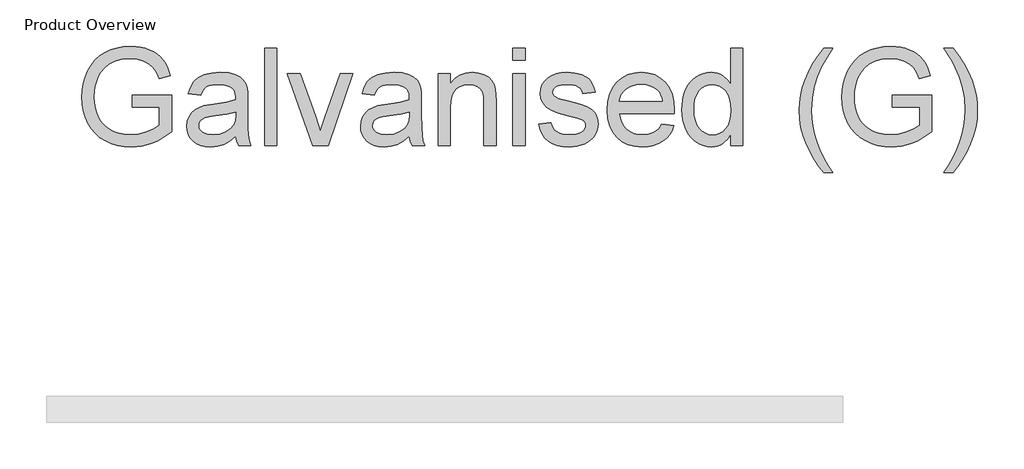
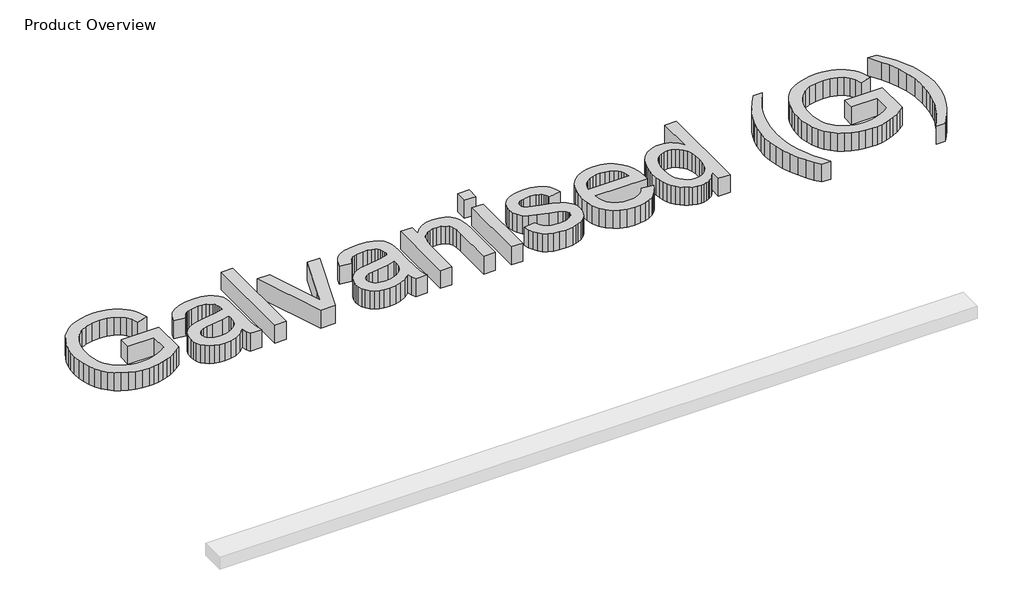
# One storey, part 6 of 12: 1 proxy.
"""IFC4 building model written with IfcOpenShell, lengths in millimetres."""

import ifcopenshell
import ifcopenshell.guid

model = None  # the IFC model being written
_history = None  # IfcOwnerHistory: only IFC2X3 demands one
_inside = {}  # id of a spatial element -> (the spatial element, [elements in it])
_under = {}  # id of a project, library or spatial element -> (it, [spatial elements below it])
_declared = {}  # id of a project -> (the project, [libraries it declares])
_typed = {}  # id of a type object -> (the type object, [elements of that type])
_made_of = {}  # id of a material, layer set ... -> (it, [elements and type objects made of it])


def new_model(schema):
    """Start an empty IFC model of exactly this schema.

    Asked for "IFC4X3", IfcOpenShell would pick the latest addendum, in which some entities
    have other attributes; the version numbers below select the first issue.
    IFC2X3 requires an IfcOwnerHistory on every rooted entity: one is made here for all.
    """
    global model, _history
    if schema == "IFC4X3":
        model = ifcopenshell.file(schema_version=(4, 3, 0, 0))
    else:
        model = ifcopenshell.file(schema=schema)
    _inside.clear()
    _under.clear()
    _declared.clear()
    _typed.clear()
    _made_of.clear()
    _history = None
    if model.schema == "IFC2X3":
        org = make("IfcOrganization", Name="unknown")
        user = make(
            "IfcPersonAndOrganization",
            ThePerson=make("IfcPerson", FamilyName="unknown"),
            TheOrganization=org,
        )
        app = make(
            "IfcApplication",
            ApplicationDeveloper=org,
            Version="unknown",
            ApplicationFullName="unknown",
            ApplicationIdentifier="unknown",
        )
        _history = make(
            "IfcOwnerHistory",
            OwningUser=user,
            OwningApplication=app,
            ChangeAction="ADDED",
            CreationDate=0,
        )
    return model


def make(cls, **values):
    """One entity of the class cls with the attributes given. An attribute that is None is left unset."""
    return model.create_entity(
        cls, **{name: value for name, value in values.items() if value is not None}
    )


def rooted(cls, **values):
    """An entity with a GlobalId (a new one), such as an element, a storey or a relation."""
    return make(cls, GlobalId=ifcopenshell.guid.new(), OwnerHistory=_history, **values)


def si_unit(unit_type, name, prefix=None):
    """IfcSIUnit, for example si_unit("LENGTHUNIT", "METRE", prefix="MILLI")."""
    return make("IfcSIUnit", UnitType=unit_type, Prefix=prefix, Name=name)


def assignment(units):
    """IfcUnitAssignment: the units of a project."""
    return None if units is None else make("IfcUnitAssignment", Units=units)


def point(xyz):
    """IfcCartesianPoint."""
    return None if xyz is None else make("IfcCartesianPoint", Coordinates=xyz)


def direction(xyz):
    """IfcDirection."""
    return None if xyz is None else make("IfcDirection", DirectionRatios=xyz)


def frame(location, z_axis=None, x_axis=None):
    """IfcAxis2Placement3D, a coordinate frame: its origin and axes. An axis left out is left unset."""
    return make(
        "IfcAxis2Placement3D",
        Location=point(location),
        Axis=direction(z_axis),
        RefDirection=direction(x_axis),
    )


def origin():
    """The frame at (0, 0, 0) with its axes left unset."""
    return frame((0.0, 0.0, 0.0))


def origin_with_axes():
    """The frame at (0, 0, 0) with the z axis (0, 0, 1) and the x axis (1, 0, 0) written out."""
    return frame((0.0, 0.0, 0.0), z_axis=(0.0, 0.0, 1.0), x_axis=(1.0, 0.0, 0.0))


def place(relative_to, where):
    """IfcLocalPlacement: puts the frame where relative to a parent placement (None: the world)."""
    return make(
        "IfcLocalPlacement", PlacementRelTo=relative_to, RelativePlacement=where
    )


def context(
    kind, dimensions, precision=None, world=None, true_north=None, identifier=None
):
    """IfcGeometricRepresentationContext, for example the 3D "Model" context."""
    return make(
        "IfcGeometricRepresentationContext",
        ContextIdentifier=identifier,
        ContextType=kind,
        CoordinateSpaceDimension=dimensions,
        Precision=precision,
        WorldCoordinateSystem=world,
        TrueNorth=true_north,
    )


def project(units=None, contexts=None):
    """IfcProject with its units and contexts."""
    return rooted(
        "IfcProject",
        Name="project",
        RepresentationContexts=contexts,
        UnitsInContext=assignment(units),
    )


def spatial(cls, under=None, at=None, **own):
    """A site, building, storey or space (cls), placed at a placement, below another one or the project."""
    s = rooted(cls, ObjectPlacement=at, **own)
    if under is not None:
        _under.setdefault(under.id(), (under, []))[1].append(s)
    return s


def polyline(points):
    """IfcPolyline through the points."""
    return make("IfcPolyline", Points=[point(p) for p in points])


def outline(outer, holes=None, kind="AREA"):
    """IfcArbitraryClosedProfileDef: a profile drawn as a closed curve; with holes, ...WithVoids."""
    if holes is None:
        return make("IfcArbitraryClosedProfileDef", ProfileType=kind, OuterCurve=outer)
    return make(
        "IfcArbitraryProfileDefWithVoids",
        ProfileType=kind,
        OuterCurve=outer,
        InnerCurves=holes,
    )


def extrude(swept, where, along, depth):
    """IfcExtrudedAreaSolid: the profile swept, set in the frame where, extruded along a direction by depth."""
    return make(
        "IfcExtrudedAreaSolid",
        SweptArea=swept,
        Position=where,
        ExtrudedDirection=direction(along),
        Depth=depth,
    )


def shape(context_of_items, identifier, shape_type, items):
    """IfcShapeRepresentation: the items that make up one representation, for example the "Body"."""
    return make(
        "IfcShapeRepresentation",
        ContextOfItems=context_of_items,
        RepresentationIdentifier=identifier,
        RepresentationType=shape_type,
        Items=items,
    )


def made_of(thing, what):
    """Note that an element or type object is made of a material, layer set ...; save() writes the relation."""
    if what is not None:
        _made_of.setdefault(what.id(), (what, []))[1].append(thing)
    return thing


def element(
    cls,
    number,
    at=None,
    inside=None,
    cuts=None,
    type_object=None,
    material=None,
    context=None,
    identifier="Body",
    shape_type=None,
    held_by="IfcProductDefinitionShape",
    body=None,
    shapes=None,
    **own,
):
    """One element of the class cls, such as IfcWall. Its Tag is "e" and its number.

    at: its placement. inside: the storey or other place that contains it. cuts: it is an
    opening in that element (IfcRelVoidsElement). A single representation is given by context,
    identifier, shape_type and body (its items); several are given by shapes. held_by: the class
    of the entity that holds the representations. save() writes the other relations.
    """
    e = rooted(cls, Tag="e%d" % number, ObjectPlacement=at, **own)
    if body is not None:
        shapes = [shape(context, identifier, shape_type, body)]
    if shapes is not None:
        e.Representation = make(held_by, Representations=shapes)
    if inside is not None:
        _inside.setdefault(inside.id(), (inside, []))[1].append(e)
    if cuts is not None:
        rooted(
            "IfcRelVoidsElement", RelatingBuildingElement=cuts, RelatedOpeningElement=e
        )
    if type_object is not None:
        _typed.setdefault(type_object.id(), (type_object, []))[1].append(e)
    return made_of(e, material)


def aggregate(whole, parts):
    """IfcRelAggregates: a whole, such as a stair, and the parts it consists of."""
    return rooted("IfcRelAggregates", RelatingObject=whole, RelatedObjects=parts)


def save(model, path):
    """Write the relations noted so far, then the file.

    IfcRelAggregates (storeys below a building ...), IfcRelContainedInSpatialStructure (elements
    in a storey), IfcRelDefinesByType, IfcRelAssociatesMaterial and IfcRelDeclares: one each for
    every whole, place, type object, material and project.
    """
    for whole, parts in _under.values():
        aggregate(whole, parts)
    for where, things in _inside.values():
        rooted(
            "IfcRelContainedInSpatialStructure",
            RelatedElements=things,
            RelatingStructure=where,
        )
    for kind, things in _typed.values():
        rooted("IfcRelDefinesByType", RelatedObjects=things, RelatingType=kind)
    for what, things in _made_of.values():
        rooted("IfcRelAssociatesMaterial", RelatedObjects=things, RelatingMaterial=what)
    for by, libraries in _declared.values():
        rooted("IfcRelDeclares", RelatingContext=by, RelatedDefinitions=libraries)
    model.write(path)


model = new_model("IFC4")

# Units and contexts
model_context = context("Model", 3, world=origin())
ifc_project = project(units=[si_unit("LENGTHUNIT", "METRE", prefix="MILLI")], contexts=[model_context])

# Site, building, storey
site = spatial("IfcSite", under=ifc_project)
building = spatial("IfcBuilding", under=site)
storey = spatial("IfcBuildingStorey", under=building, Name="Product Overview", Elevation=0.0)

# Proxy
placement = place(None, origin())
element("IfcBuildingElementProxy", 1, Name="750mm", ObjectType="750mm", at=placement, inside=storey, context=model_context, shape_type="SweptSolid", body=[
    extrude(outline(polyline([(-15852.0111587, -12566.9043976), (-15852.0111587, -12475.0862158), (-15553.6020678, -12475.0862158), (-15553.6020678, -12749.6440993), (-15589.5750236, -12776.6448318), (-15626.1196015, -12800.081333), (-15663.2358013, -12819.9536031), (-15700.9236232, -12836.261642), (-15739.1382339, -12848.9718248), (-15777.8348004, -12858.0505269), (-15817.0133226, -12863.4977481), (-15856.6738007, -12865.3134886), (-15909.4143347, -12862.427358), (-15959.6778401, -12853.7689662), (-16007.464317, -12839.3383132), (-16052.7737652, -12819.1353991), (-16094.1435051, -12793.4628471), (-16130.1108568, -12762.6232808), (-16160.6758204, -12726.6167001), (-16185.8383959, -12685.443105), (-16205.4921046, -12640.4194678), (-16219.530468, -12592.8627606), (-16227.953486, -12542.7729834), (-16230.7611587, -12490.1501363), (-16227.9646943, -12437.521685), (-16219.5753011, -12386.6977659), (-16205.5929791, -12337.6783789), (-16186.0177283, -12290.4635241), (-16161.1970052, -12247.1267321), (-16131.4782663, -12209.7415337), (-16096.8615116, -12178.3079288), (-16057.3467411, -12152.8259175), (-16013.7913877, -12133.1329799), (-15967.0528845, -12119.0665958), (-15917.1312315, -12110.6267654), (-15864.0264286, -12107.8134886), (-15825.2570083, -12109.4442924), (-15788.3929946, -12114.3367041), (-15753.4343875, -12122.4907235), (-15720.3811871, -12133.9063508), (-15690.0123683, -12148.2305251), (-15663.1069062, -12165.110186), (-15639.6648008, -12184.5453334), (-15619.6860521, -12206.5359672), (-15602.5317886, -12231.5808558), (-15587.5631384, -12260.1787673), (-15574.7801018, -12292.3297017), (-15564.1826786, -12328.033659), (-15648.8275649, -12351.8848664), (-15667.7247151, -12303.4875386), (-15690.7016771, -12266.9709815), (-15721.0985166, -12239.4434601), (-15762.2552993, -12218.01324), (-15811.3251235, -12204.2270628), (-15865.4610876, -12199.6316704), (-15928.8326697, -12204.5857275), (-15983.0134669, -12219.4478991), (-16027.8017304, -12242.3576114), (-16062.9957112, -12271.4542911), (-16090.0076519, -12305.2360294), (-16110.249795, -12342.2009175), (-16122.8030621, -12376.1619882), (-16131.7696814, -12411.5128849), (-16137.149653, -12448.2536075), (-16138.9429769, -12486.3841562), (-16136.7853841, -12532.2316016), (-16130.3126058, -12574.1897758), (-16119.5246419, -12612.258679), (-16104.4214925, -12646.438311), (-16085.1993023, -12676.5997767), (-16062.0542162, -12702.614181), (-16034.9862341, -12724.4815239), (-16003.9953561, -12742.2018053), (-15970.5330536, -12755.8927122), (-15936.0507982, -12765.6719314), (-15900.5485899, -12771.5394629), (-15864.0264286, -12773.4953067), (-15800.430681, -12767.5997545), (-15738.4040919, -12749.9130979), (-15684.5371264, -12725.5463099), (-15645.4202496, -12699.6103636), (-15645.4202496, -12566.9043976), (-15852.0111587, -12566.9043976)])), origin_with_axes(), (0.0, 0.0, 1.0), 150.0),
    extrude(outline(polyline([(-15071.5566132, -12784.9725795), (-15115.4257982, -12822.5875475), (-15160.595143, -12847.2009175), (-15208.0958089, -12860.7853458), (-15258.958957, -12865.3134886), (-15299.8411369, -12862.5898779), (-15335.6908018, -12854.4190461), (-15366.5079515, -12840.800993), (-15392.2925862, -12821.7357187), (-15412.6524162, -12798.4337167), (-15427.1951519, -12772.1054807), (-15435.9207933, -12742.7510107), (-15438.8293405, -12710.3703067), (-15434.435697, -12672.3070077), (-15421.2547666, -12637.7406903), (-15400.9229573, -12608.1508465), (-15375.0766771, -12585.0169687), (-15344.7022542, -12567.532061), (-15310.7860166, -12554.8891278), (-15231.3417695, -12541.080534), (-15137.4612652, -12526.5546107), (-15072.0946104, -12509.518034), (-15071.5566132, -12489.074142), (-15073.1369799, -12466.8145095), (-15077.8780798, -12448.0966917), (-15085.7799131, -12432.9206885), (-15096.8424797, -12421.2864999), (-15115.9637954, -12409.6747279), (-15139.2545891, -12401.380605), (-15166.7148607, -12396.4041313), (-15198.3446104, -12394.7453067), (-15253.0409882, -12399.1613667), (-15274.2022098, -12404.6814418), (-15291.2387865, -12412.4095468), (-15305.2379209, -12422.9509286), (-15317.2868156, -12436.9108341), (-15327.3854706, -12454.2892631), (-15335.5338859, -12475.0862158), (-15427.3520678, -12463.6089431), (-15411.4139019, -12413.3958749), (-15387.6299442, -12373.9427499), (-15372.2409838, -12357.8812931), (-15353.7809563, -12343.7700759), (-15307.6476999, -12321.3983607), (-15251.2252478, -12307.5449339), (-15186.5086729, -12302.9271249), (-15124.4372506, -12307.0069367), (-15075.2329271, -12319.2463721), (-15038.1335397, -12337.6503582), (-15012.3769257, -12360.2238224), (-14995.2955159, -12388.132425), (-14984.2217411, -12422.5418266), (-14980.8592588, -12454.283659), (-14979.7384314, -12502.8827357), (-14979.7384314, -12617.1174658), (-14978.5727709, -12716.6245237), (-14975.0757894, -12776.6336235), (-14968.1714925, -12816.0643319), (-14956.7838859, -12853.8362158), (-15048.6020678, -12853.8362158), (-15063.3073234, -12821.9150511), (-15071.5566132, -12784.9725795)]), holes=[polyline([(-15071.5566132, -12601.3362158), (-15133.2469541, -12616.6243018), (-15219.6851644, -12629.4914005), (-15267.3203295, -12636.5301966), (-15298.6810805, -12644.3759886), (-15319.2370553, -12654.5531015), (-15334.4578916, -12668.5858607), (-15343.8728419, -12685.3982719), (-15347.0111587, -12703.9143408), (-15345.3018969, -12718.1824738), (-15340.1741114, -12731.2176966), (-15331.6278024, -12743.0200093), (-15319.6629697, -12753.5894118), (-15304.3916962, -12762.2982409), (-15285.9260646, -12768.518833), (-15239.4117269, -12773.4953067), (-15190.0953206, -12768.0032524), (-15146.5175507, -12751.5270894), (-15111.1890706, -12727.2499676), (-15086.6205337, -12698.3550368), (-15075.7260912, -12668.5858607), (-15072.0946104, -12627.3394118), (-15071.5566132, -12601.3362158)])]), origin_with_axes(), (0.0, 0.0, 1.0), 150.0),
    extrude(outline(polyline([(-14853.4884314, -12853.8362158), (-14853.4884314, -12119.2907613), (-14761.6702496, -12119.2907613), (-14761.6702496, -12853.8362158), (-14853.4884314, -12853.8362158)])), origin_with_axes(), (0.0, 0.0, 1.0), 150.0),
    extrude(outline(polyline([(-14491.5956757, -12853.8362158), (-14681.3293405, -12314.4043976), (-14584.1311871, -12314.4043976), (-14469.1791274, -12637.5613579), (-14434.5679769, -12746.236784), (-14400.6741558, -12643.658659), (-14285.0047666, -12314.4043976), (-14187.8066132, -12314.4043976), (-14375.208957, -12853.8362158), (-14491.5956757, -12853.8362158)])), origin_with_axes(), (0.0, 0.0, 1.0), 150.0),
    extrude(outline(polyline([(-13763.1475223, -12784.9725795), (-13807.0167073, -12822.5875475), (-13852.1860521, -12847.2009175), (-13899.686718, -12860.7853458), (-13950.5498661, -12865.3134886), (-13991.432046, -12862.5898779), (-14027.2817109, -12854.4190461), (-14058.0988606, -12840.800993), (-14083.8834953, -12821.7357187), (-14104.2433253, -12798.4337167), (-14118.786061, -12772.1054807), (-14127.5117024, -12742.7510107), (-14130.4202496, -12710.3703067), (-14126.0266061, -12672.3070077), (-14112.8456757, -12637.7406903), (-14092.5138664, -12608.1508465), (-14066.6675862, -12585.0169687), (-14036.2931633, -12567.532061), (-14002.3769257, -12554.8891278), (-13922.9326786, -12541.080534), (-13829.0521743, -12526.5546107), (-13763.6855195, -12509.518034), (-13763.1475223, -12489.074142), (-13764.727889, -12466.8145095), (-13769.4689889, -12448.0966917), (-13777.3708222, -12432.9206885), (-13788.4333888, -12421.2864999), (-13807.5547045, -12409.6747279), (-13830.8454982, -12401.380605), (-13858.3057698, -12396.4041313), (-13889.9355195, -12394.7453067), (-13944.6318973, -12399.1613667), (-13965.7931189, -12404.6814418), (-13982.8296956, -12412.4095468), (-13996.82883, -12422.9509286), (-14008.8777247, -12436.9108341), (-14018.9763797, -12454.2892631), (-14027.124795, -12475.0862158), (-14118.9429769, -12463.6089431), (-14103.004811, -12413.3958749), (-14079.2208533, -12373.9427499), (-14063.8318929, -12357.8812931), (-14045.3718653, -12343.7700759), (-13999.238609, -12321.3983607), (-13942.8161569, -12307.5449339), (-13878.099582, -12302.9271249), (-13816.0281597, -12307.0069367), (-13766.8238362, -12319.2463721), (-13729.7244488, -12337.6503582), (-13703.9678348, -12360.2238224), (-13686.886425, -12388.132425), (-13675.8126501, -12422.5418266), (-13672.4501679, -12454.283659), (-13671.3293405, -12502.8827357), (-13671.3293405, -12617.1174658), (-13670.16368, -12716.6245237), (-13666.6666984, -12776.6336235), (-13659.7624016, -12816.0643319), (-13648.374795, -12853.8362158), (-13740.1929769, -12853.8362158), (-13754.8982325, -12821.9150511), (-13763.1475223, -12784.9725795)]), holes=[polyline([(-13763.1475223, -12601.3362158), (-13824.8378632, -12616.6243018), (-13911.2760734, -12629.4914005), (-13958.9112386, -12636.5301966), (-13990.2719896, -12644.3759886), (-14010.8279644, -12654.5531015), (-14026.0488007, -12668.5858607), (-14035.463751, -12685.3982719), (-14038.6020678, -12703.9143408), (-14036.892806, -12718.1824738), (-14031.7650205, -12731.2176966), (-14023.2187115, -12743.0200093), (-14011.2538788, -12753.5894118), (-13995.9826053, -12762.2982409), (-13977.5169737, -12768.518833), (-13931.0026359, -12773.4953067), (-13881.6862297, -12768.0032524), (-13838.1084598, -12751.5270894), (-13802.7799797, -12727.2499676), (-13778.2114428, -12698.3550368), (-13767.3170003, -12668.5858607), (-13763.6855195, -12627.3394118), (-13763.1475223, -12601.3362158)])]), origin_with_axes(), (0.0, 0.0, 1.0), 150.0),
    extrude(outline(polyline([(-13545.0793405, -12853.8362158), (-13545.0793405, -12314.4043976), (-13453.2611587, -12314.4043976), (-13453.2611587, -12389.7239999), (-13421.3624104, -12351.7503671), (-13383.0525294, -12324.6263437), (-13338.3315156, -12308.3519296), (-13287.1993689, -12302.9271249), (-13241.9403579, -12307.2983518), (-13200.4921601, -12320.4120326), (-13165.9258426, -12340.6317591), (-13141.3124726, -12366.3211235), (-13124.6121441, -12397.412876), (-13113.7849513, -12433.839767), (-13110.1534705, -12468.675083), (-13108.9429769, -12522.6092982), (-13108.9429769, -12853.8362158), (-13200.7611587, -12853.8362158), (-13200.7611587, -12534.9832329), (-13203.4063114, -12487.5049836), (-13211.3417695, -12453.7456618), (-13225.9797755, -12429.5582062), (-13248.732572, -12410.7955553), (-13277.8965014, -12398.7578689), (-13311.7679058, -12394.7453067), (-13339.6484878, -12396.9981698), (-13365.5452052, -12403.7567591), (-13389.4580581, -12415.0210747), (-13411.3870465, -12430.7911164), (-13429.7069705, -12452.8602082), (-13442.7926306, -12483.0216739), (-13450.6440267, -12521.2755136), (-13453.2611587, -12567.6217272), (-13453.2611587, -12853.8362158), (-13545.0793405, -12853.8362158)])), origin_with_axes(), (0.0, 0.0, 1.0), 150.0),
    extrude(outline(polyline([(-12982.6929769, -12211.1089431), (-12982.6929769, -12119.2907613), (-12890.874795, -12119.2907613), (-12890.874795, -12211.1089431), (-12982.6929769, -12211.1089431)])), origin_with_axes(), (0.0, 0.0, 1.0), 150.0),
    extrude(outline(polyline([(-12982.6929769, -12853.8362158), (-12982.6929769, -12314.4043976), (-12890.874795, -12314.4043976), (-12890.874795, -12853.8362158), (-12982.6929769, -12853.8362158)])), origin_with_axes(), (0.0, 0.0, 1.0), 150.0),
    extrude(outline(polyline([(-12787.5793405, -12693.1543976), (-12695.7611587, -12681.6771249), (-12690.213063, -12702.614181), (-12681.2800685, -12720.9509175), (-12668.9621752, -12736.6873344), (-12653.2593831, -12749.8234317), (-12634.1268591, -12760.179877), (-12611.5197702, -12767.577338), (-12585.4381162, -12772.0158145), (-12555.8818973, -12773.4953067), (-12500.9165209, -12768.070502), (-12479.5535504, -12761.2894962), (-12462.2703916, -12751.796088), (-12448.9325454, -12740.4757311), (-12439.4055124, -12728.2138792), (-12433.6892925, -12715.0105322), (-12431.7838859, -12700.8656903), (-12433.7005008, -12688.4693391), (-12439.4503455, -12677.4628138), (-12449.0334199, -12667.8461146), (-12462.449724, -12659.6192414), (-12496.8367091, -12647.9626363), (-12556.9578916, -12633.436713), (-12640.7509492, -12609.2044243), (-12695.2231615, -12588.5139502), (-12730.2153934, -12565.9404861), (-12755.5685095, -12536.0592272), (-12770.9686782, -12500.7755802), (-12776.1020678, -12461.9949516), (-12771.9774229, -12426.4198895), (-12759.6034882, -12393.5796462), (-12740.1010912, -12364.7743817), (-12714.5910592, -12341.3042556), (-12689.2379431, -12326.5317503), (-12656.2183675, -12314.1353991), (-12618.0429857, -12305.7291935), (-12577.2224513, -12302.9271249), (-12517.4599335, -12307.4328511), (-12465.4983746, -12320.9500297), (-12423.7139286, -12342.1560844), (-12407.5291807, -12355.1464742), (-12394.4827496, -12369.7284388), (-12375.1148519, -12405.7069989), (-12362.9202496, -12452.1316704), (-12454.7384314, -12463.6089431), (-12459.1152625, -12448.2704199), (-12466.3277869, -12434.7140123), (-12476.3760046, -12422.9397204), (-12489.2599158, -12412.947544), (-12505.0355616, -12404.9840652), (-12523.7589836, -12399.295866), (-12570.0491558, -12394.7453067), (-12622.7728774, -12399.0941171), (-12642.544273, -12404.5301301), (-12657.9220251, -12412.1405482), (-12677.6934207, -12430.9704488), (-12682.6362696, -12441.4613934), (-12684.2838859, -12452.6696675), (-12681.5490671, -12466.792093), (-12673.3446104, -12479.3901931), (-12659.3118511, -12490.6433003), (-12639.0921246, -12499.6547528), (-12560.0065422, -12519.2019829), (-12478.8810539, -12543.1876895), (-12425.2382538, -12562.421088), (-12389.6407751, -12583.0891455), (-12362.651251, -12611.3788295), (-12352.7263242, -12628.4041979), (-12345.6370908, -12647.379806), (-12339.9657041, -12691.1817414), (-12341.6301328, -12714.1587034), (-12346.623419, -12736.463169), (-12354.9455625, -12758.0951381), (-12366.5965635, -12779.0546107), (-12381.3858812, -12798.5065705), (-12399.1229751, -12815.616001), (-12419.807845, -12830.3829022), (-12443.4404911, -12842.8072741), (-12469.3764374, -12852.6537429), (-12496.9712084, -12859.6869349), (-12557.137224, -12865.3134886), (-12606.5545047, -12862.6010862), (-12649.7175685, -12854.4638792), (-12686.6264152, -12840.9018675), (-12717.281045, -12821.9150511), (-12742.3203295, -12797.5930962), (-12762.3831402, -12768.025669), (-12777.4694772, -12733.2127694), (-12787.5793405, -12693.1543976)])), origin_with_axes(), (0.0, 0.0, 1.0), 150.0),
    extrude(outline(polyline([(-11858.9962439, -12693.1543976), (-11768.9713859, -12704.6316704), (-11782.7743756, -12740.6886883), (-11801.4081313, -12772.4641455), (-11824.8726533, -12799.958042), (-11853.1679413, -12823.1703778), (-11886.0025805, -12841.6079887), (-11923.0851555, -12854.7777109), (-11964.4156664, -12862.6795441), (-12009.9941132, -12865.3134886), (-12066.9657707, -12860.7685334), (-12117.7280443, -12847.1336679), (-12162.2809341, -12824.4088921), (-12200.6244399, -12792.5942059), (-12231.4584021, -12752.575063), (-12253.4826608, -12705.2369172), (-12266.697216, -12650.5797683), (-12271.1020678, -12588.6036164), (-12266.6523829, -12524.5259131), (-12253.3033284, -12468.0474197), (-12231.0549042, -12419.1681361), (-12199.9071104, -12377.8880624), (-12161.664479, -12345.0926523), (-12118.1315422, -12321.6673593), (-12069.3083, -12307.6121835), (-12015.1947524, -12302.9271249), (-11962.8240915, -12307.6009752), (-11915.4635291, -12321.6225262), (-11873.1130652, -12344.9917778), (-11835.7726999, -12377.70873), (-11805.2917983, -12418.8991375), (-11783.5197258, -12467.6887549), (-11770.4564823, -12524.0775821), (-11766.1020678, -12588.0656192), (-11766.6400649, -12612.8134886), (-12179.2838859, -12612.8134886), (-12173.9655599, -12649.4533367), (-12163.3905532, -12681.5426256), (-12147.558866, -12709.0813552), (-12126.4704982, -12732.0695255), (-12101.2911103, -12750.1933048), (-12073.1863629, -12763.1388614), (-12042.1562559, -12770.9061954), (-12008.2007894, -12773.4953067), (-11959.3327141, -12768.6981654), (-11918.1759314, -12754.3067414), (-11900.4892748, -12743.2890079), (-11884.7304413, -12729.4243728), (-11870.899431, -12712.712836), (-11858.9962439, -12693.1543976)]), holes=[polyline([(-12179.2838859, -12520.9953067), (-11857.9202496, -12520.9953067), (-11862.638933, -12495.0145273), (-11870.3390173, -12472.4858962), (-11881.0205026, -12453.4094136), (-11894.6833888, -12437.7850795), (-11919.7226732, -12418.9551789), (-11948.2141061, -12405.5052499), (-11980.1576874, -12397.4352925), (-12015.5534172, -12394.7453067), (-12047.8388509, -12396.8916912), (-12077.445507, -12403.3308447), (-12104.3733857, -12414.0627672), (-12128.6224868, -12429.0874587), (-12148.9711085, -12447.7100062), (-12164.1975489, -12469.2354967), (-12174.3018081, -12493.6639302), (-12179.2838859, -12520.9953067)])]), origin_with_axes(), (0.0, 0.0, 1.0), 150.0),
    extrude(outline(polyline([(-11341.4429769, -12853.8362158), (-11341.4429769, -12767.2186732), (-11368.9144568, -12810.1351549), (-11384.827404, -12826.9952013), (-11402.1918227, -12840.7897847), (-11421.007713, -12851.5189051), (-11441.2750747, -12859.1825626), (-11462.9939079, -12863.7807571), (-11486.1642126, -12865.3134886), (-11516.4713859, -12863.0942503), (-11545.5232325, -12856.4365354), (-11573.3197524, -12845.340344), (-11599.8609456, -12829.8056761), (-11624.3173998, -12810.2976749), (-11645.8597027, -12787.2814839), (-11664.4878543, -12760.7571032), (-11680.2018547, -12730.7245326), (-11692.6766638, -12697.7553942), (-11701.5872418, -12662.4213099), (-11706.9335885, -12624.7222798), (-11708.7157041, -12584.6583039), (-11707.073692, -12545.3284699), (-11702.1476555, -12507.8592094), (-11693.9375947, -12472.2505225), (-11682.4435095, -12438.502409), (-11667.6710042, -12407.6011972), (-11649.6256828, -12380.5332151), (-11628.3075454, -12357.2984628), (-11603.7165919, -12337.8969403), (-11576.7214636, -12322.597646), (-11548.1908018, -12311.6695788), (-11518.1246064, -12305.1127384), (-11486.5228774, -12302.9271249), (-11463.4114161, -12304.4906792), (-11441.6001146, -12309.1813419), (-11421.0889729, -12316.9991131), (-11401.8779911, -12327.9439928), (-11368.2083355, -12356.7044243), (-11341.4429769, -12392.9519829), (-11341.4429769, -12119.2907613), (-11249.624795, -12119.2907613), (-11249.624795, -12853.8362158), (-11341.4429769, -12853.8362158)]), holes=[polyline([(-11616.8975223, -12584.2996391), (-11614.308411, -12628.8245082), (-11606.541077, -12667.3529506), (-11593.5955204, -12699.8849663), (-11575.4717411, -12726.4205553), (-11553.8285637, -12747.0157591), (-11530.3248128, -12761.7266189), (-11504.9604884, -12770.5531348), (-11477.7355905, -12773.4953067), (-11450.3817974, -12770.6876341), (-11425.1687847, -12762.264616), (-11402.0965524, -12748.2262527), (-11381.1651004, -12728.572544), (-11363.7866714, -12703.146574), (-11351.3735077, -12671.7914271), (-11343.9256096, -12634.5071032), (-11341.4429769, -12591.2936022), (-11343.9704427, -12543.9162274), (-11351.5528401, -12503.2862336), (-11364.1901692, -12469.4036208), (-11381.88243, -12442.2683891), (-11403.2734212, -12421.4770406), (-11427.0069417, -12406.6260773), (-11453.0829915, -12397.7154994), (-11481.5015706, -12394.7453067), (-11509.2644657, -12397.5978125), (-11534.6287901, -12406.1553298), (-11557.5945438, -12420.4178587), (-11578.1617269, -12440.3853991), (-11595.1086374, -12466.4950737), (-11607.2135734, -12499.1840052), (-11614.4765351, -12538.4521937), (-11616.8975223, -12584.2996391)])]), origin_with_axes(), (0.0, 0.0, 1.0), 150.0),
    extrude(outline(polyline([(-10641.3293405, -13060.4271249), (-10678.3951031, -13012.4669198), (-10712.4794648, -12960.5838188), (-10743.5824255, -12904.7778218), (-10771.7039854, -12845.0489289), (-10795.0059873, -12782.7981743), (-10811.6502744, -12719.4265922), (-10821.6368467, -12654.9341828), (-10824.9657041, -12589.3209459), (-10822.4774673, -12531.6543754), (-10815.0127567, -12475.2207151), (-10802.5715724, -12420.0199649), (-10785.1539144, -12366.0521249), (-10758.6799708, -12304.1600351), (-10725.8845607, -12242.4024445), (-10686.7676839, -12180.7793533), (-10641.3293405, -12119.2907613), (-10572.4657041, -12119.2907613), (-10626.4895855, -12206.5808003), (-10658.3659172, -12264.7293266), (-10687.6867624, -12333.7722954), (-10710.0136445, -12405.6845823), (-10727.3640528, -12497.5475972), (-10733.1475223, -12589.8589431), (-10730.6368689, -12648.7191948), (-10723.1049087, -12707.5682382), (-10710.5516416, -12766.4060733), (-10692.9770678, -12825.2327002), (-10670.3811871, -12884.0481188), (-10642.7639996, -12942.8523291), (-10610.1255053, -13001.6453311), (-10572.4657041, -13060.4271249), (-10641.3293405, -13060.4271249)])), origin_with_axes(), (0.0, 0.0, 1.0), 150.0),
    extrude(outline(polyline([(-10124.8520678, -12566.9043976), (-10124.8520678, -12475.0862158), (-9826.4429769, -12475.0862158), (-9826.4429769, -12749.6440993), (-9862.4159327, -12776.6448318), (-9898.9605106, -12800.081333), (-9936.0767104, -12819.9536031), (-9973.7645322, -12836.261642), (-10011.979143, -12848.9718248), (-10050.6757095, -12858.0505269), (-10089.8542317, -12863.4977481), (-10129.5147098, -12865.3134886), (-10182.2552438, -12862.427358), (-10232.5187492, -12853.7689662), (-10280.3052261, -12839.3383132), (-10325.6146743, -12819.1353991), (-10366.9844142, -12793.4628471), (-10402.9517659, -12762.6232808), (-10433.5167295, -12726.6167001), (-10458.679305, -12685.443105), (-10478.3330137, -12640.4194678), (-10492.3713771, -12592.8627606), (-10500.7943951, -12542.7729834), (-10503.6020678, -12490.1501363), (-10500.8056034, -12437.521685), (-10492.4162102, -12386.6977659), (-10478.4338882, -12337.6783789), (-10458.8586374, -12290.4635241), (-10434.0379143, -12247.1267321), (-10404.3191754, -12209.7415337), (-10369.7024207, -12178.3079288), (-10330.1876501, -12152.8259175), (-10286.6322968, -12133.1329799), (-10239.8937936, -12119.0665958), (-10189.9721406, -12110.6267654), (-10136.8673376, -12107.8134886), (-10098.0979174, -12109.4442924), (-10061.2339037, -12114.3367041), (-10026.2752966, -12122.4907235), (-9993.2220962, -12133.9063508), (-9962.8532774, -12148.2305251), (-9935.9478153, -12165.110186), (-9912.5057099, -12184.5453334), (-9892.5269612, -12206.5359672), (-9875.3726976, -12231.5808558), (-9860.4040475, -12260.1787673), (-9847.6210109, -12292.3297017), (-9837.0235876, -12328.033659), (-9921.668474, -12351.8848664), (-9940.5656242, -12303.4875386), (-9963.5425862, -12266.9709815), (-9993.9394257, -12239.4434601), (-10035.0962084, -12218.01324), (-10084.1660326, -12204.2270628), (-10138.3019967, -12199.6316704), (-10201.6735788, -12204.5857275), (-10255.854376, -12219.4478991), (-10300.6426395, -12242.3576114), (-10335.8366203, -12271.4542911), (-10362.848561, -12305.2360294), (-10383.0907041, -12342.2009175), (-10395.6439712, -12376.1619882), (-10404.6105905, -12411.5128849), (-10409.9905621, -12448.2536075), (-10411.7838859, -12486.3841562), (-10409.6262932, -12532.2316016), (-10403.1535148, -12574.1897758), (-10392.365551, -12612.258679), (-10377.2624016, -12646.438311), (-10358.0402114, -12676.5997767), (-10334.8951253, -12702.614181), (-10307.8271432, -12724.4815239), (-10276.8362652, -12742.2018053), (-10243.3739627, -12755.8927122), (-10208.8917073, -12765.6719314), (-10173.389499, -12771.5394629), (-10136.8673376, -12773.4953067), (-10073.2715901, -12767.5997545), (-10011.245001, -12749.9130979), (-9957.3780354, -12725.5463099), (-9918.2611587, -12699.6103636), (-9918.2611587, -12566.9043976), (-10124.8520678, -12566.9043976)])), origin_with_axes(), (0.0, 0.0, 1.0), 150.0),
    extrude(outline(polyline([(-9665.7611587, -13060.4271249), (-9734.624795, -13060.4271249), (-9696.9649939, -13001.6453311), (-9664.3264996, -12942.8523291), (-9636.7093121, -12884.0481188), (-9614.1134314, -12825.2327002), (-9596.5388575, -12766.4060733), (-9583.9855905, -12707.5682382), (-9576.4536303, -12648.7191948), (-9573.9429769, -12589.8589431), (-9579.7264463, -12498.2200937), (-9597.0768547, -12407.2985738), (-9619.0002389, -12335.2517876), (-9648.1865848, -12266.1639857), (-9680.1974158, -12207.3877961), (-9734.624795, -12119.2907613), (-9665.7611587, -12119.2907613), (-9620.3228153, -12180.7793533), (-9581.2059385, -12242.4024445), (-9548.4105283, -12304.1600351), (-9521.9365848, -12366.0521249), (-9504.5189268, -12420.0199649), (-9492.0777425, -12475.2207151), (-9484.6130319, -12531.6543754), (-9482.124795, -12589.3209459), (-9485.4704649, -12654.9341828), (-9495.5074744, -12719.4265922), (-9512.2358235, -12782.7981743), (-9535.6555124, -12845.0489289), (-9563.8611343, -12904.7778218), (-9594.9472826, -12960.5838188), (-9628.9139574, -13012.4669198), (-9665.7611587, -13060.4271249)])), origin_with_axes(), (0.0, 0.0, 1.0), 150.0),
])

save(model, "model.ifc")
